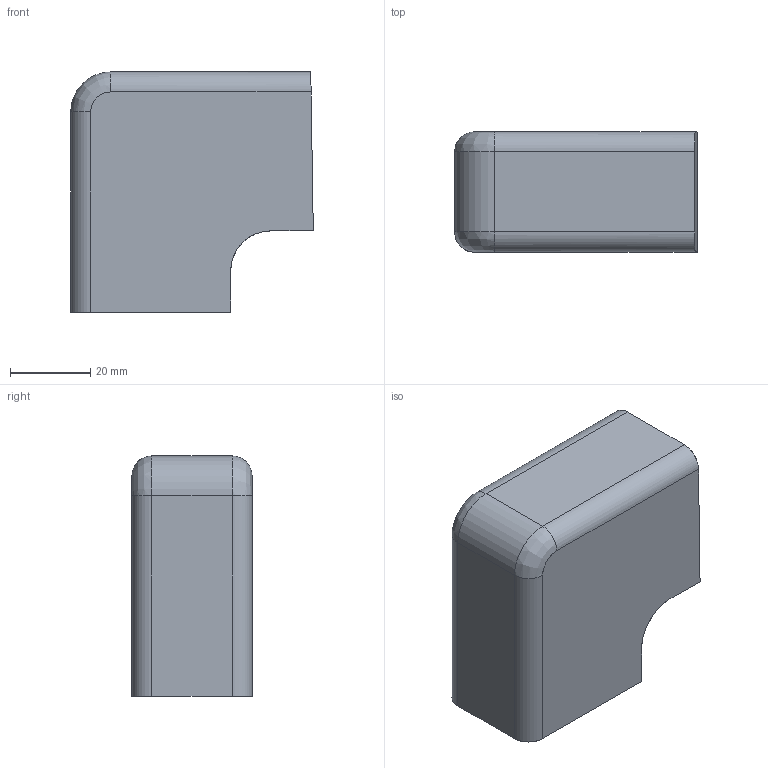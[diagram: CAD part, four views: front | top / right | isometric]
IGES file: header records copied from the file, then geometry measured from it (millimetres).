
Start section: SolidWorks IGES file using analytic representation for surfaces
Global section: file name: C:\Users\WZL\Desktop\標撿\seeed\20240518\帣匙.IGS; native system: SolidWorks 2016; preprocessor: SolidWorks 2016; author: WZL; date: 240519.110848; units: millimetre
Bounding box: 60.62 x 30 x 60 mm (x, y, z)
Surface area: 12851.4 mm2 (no closed solid volume)
Topology: 0 solids, 0 shells, 16 faces, 136 edges, 136 vertices
Faces by surface type: bspline 10, revolution 6
